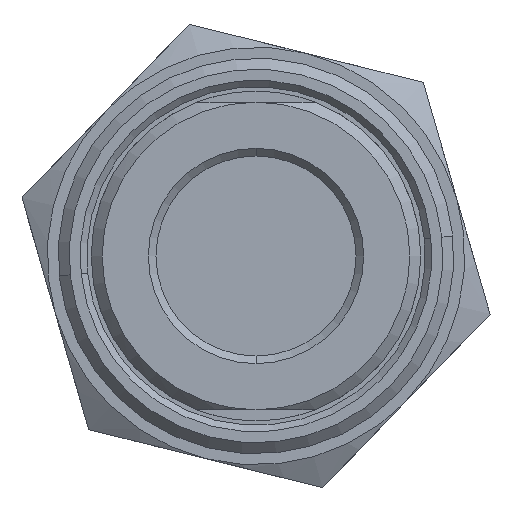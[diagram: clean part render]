
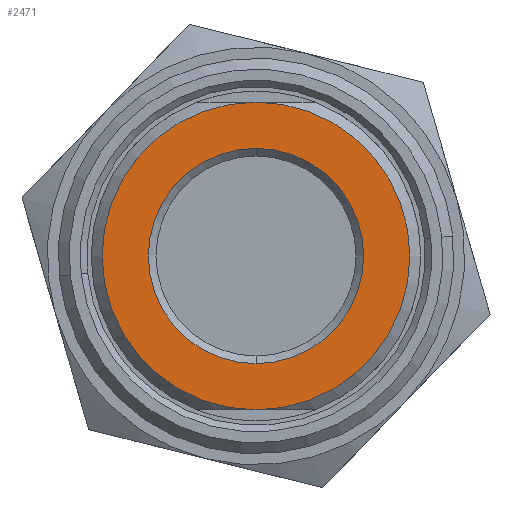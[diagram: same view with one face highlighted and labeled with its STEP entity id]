
A CAD part, front view. The second image highlights one B-rep face of the part: STEP entity #2471.
In plain terms, the highlighted planar face has unit normal (0, -1, 0).
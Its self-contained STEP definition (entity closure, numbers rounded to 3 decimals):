
#65 = PLANE ( 'NONE',  #941 ) ;
#72 = CARTESIAN_POINT ( 'NONE',  ( 0., 0., 0. ) ) ;
#73 = DIRECTION ( 'NONE',  ( 0., -1., 0. ) ) ;
#74 = DIRECTION ( 'NONE',  ( 0., 0., -1. ) ) ;
#652 = FACE_OUTER_BOUND ( 'NONE', #2557, .T. ) ;
#941 = AXIS2_PLACEMENT_3D ( 'NONE', #72, #73, #74 ) ;
#979 = AXIS2_PLACEMENT_3D ( 'NONE', #1837, #1838, #1839 ) ;
#983 = AXIS2_PLACEMENT_3D ( 'NONE', #1506, #1507, #1508 ) ;
#985 = AXIS2_PLACEMENT_3D ( 'NONE', #1537, #1538, #1539 ) ;
#986 = AXIS2_PLACEMENT_3D ( 'NONE', #1542, #1543, #1544 ) ;
#1506 = CARTESIAN_POINT ( 'NONE',  ( 0., 0., 0. ) ) ;
#1507 = DIRECTION ( 'NONE',  ( 0., 1., 0. ) ) ;
#1508 = DIRECTION ( 'NONE',  ( 0., 0., 1. ) ) ;
#1537 = CARTESIAN_POINT ( 'NONE',  ( 0., 0., 0. ) ) ;
#1538 = DIRECTION ( 'NONE',  ( 0., -1., 0. ) ) ;
#1539 = DIRECTION ( 'NONE',  ( 0., 0., -1. ) ) ;
#1542 = CARTESIAN_POINT ( 'NONE',  ( 0., 0., 0. ) ) ;
#1543 = DIRECTION ( 'NONE',  ( 0., -1., 0. ) ) ;
#1544 = DIRECTION ( 'NONE',  ( 0., 0., -1. ) ) ;
#1837 = CARTESIAN_POINT ( 'NONE',  ( 0., 0., 0. ) ) ;
#1838 = DIRECTION ( 'NONE',  ( 0., 1., 0. ) ) ;
#1839 = DIRECTION ( 'NONE',  ( 0., 0., 1. ) ) ;
#1989 = FACE_BOUND ( 'NONE', #2550, .T. ) ;
#2059 = CIRCLE ( 'NONE', #979, 4.9 ) ;
#2076 = CIRCLE ( 'NONE', #983, 4.9 ) ;
#2079 = CIRCLE ( 'NONE', #986, 7. ) ;
#2082 = CIRCLE ( 'NONE', #985, 7. ) ;
#2338 = ORIENTED_EDGE ( 'NONE', *, *, #3230, .T. ) ;
#2339 = ORIENTED_EDGE ( 'NONE', *, *, #3229, .T. ) ;
#2340 = ORIENTED_EDGE ( 'NONE', *, *, #3187, .T. ) ;
#2341 = ORIENTED_EDGE ( 'NONE', *, *, #3218, .T. ) ;
#2471 = ADVANCED_FACE ( 'NONE', ( #652, #1989 ), #65, .T. ) ;
#2550 = EDGE_LOOP ( 'NONE', ( #2340, #2341 ) ) ;
#2557 = EDGE_LOOP ( 'NONE', ( #2338, #2339 ) ) ;
#2699 = CARTESIAN_POINT ( 'NONE',  ( 0., 0., 4.9 ) ) ;
#2706 = CARTESIAN_POINT ( 'NONE',  ( 0., 0., -4.9 ) ) ;
#2766 = CARTESIAN_POINT ( 'NONE',  ( 0., 0., 7. ) ) ;
#2768 = CARTESIAN_POINT ( 'NONE',  ( 0., 0., -7. ) ) ;
#3187 = EDGE_CURVE ( 'NONE', #3297, #3292, #2059, .T. ) ;
#3218 = EDGE_CURVE ( 'NONE', #3292, #3297, #2076, .T. ) ;
#3229 = EDGE_CURVE ( 'NONE', #3365, #3363, #2082, .T. ) ;
#3230 = EDGE_CURVE ( 'NONE', #3363, #3365, #2079, .T. ) ;
#3292 = VERTEX_POINT ( 'NONE', #2699 ) ;
#3297 = VERTEX_POINT ( 'NONE', #2706 ) ;
#3363 = VERTEX_POINT ( 'NONE', #2766 ) ;
#3365 = VERTEX_POINT ( 'NONE', #2768 ) ;
